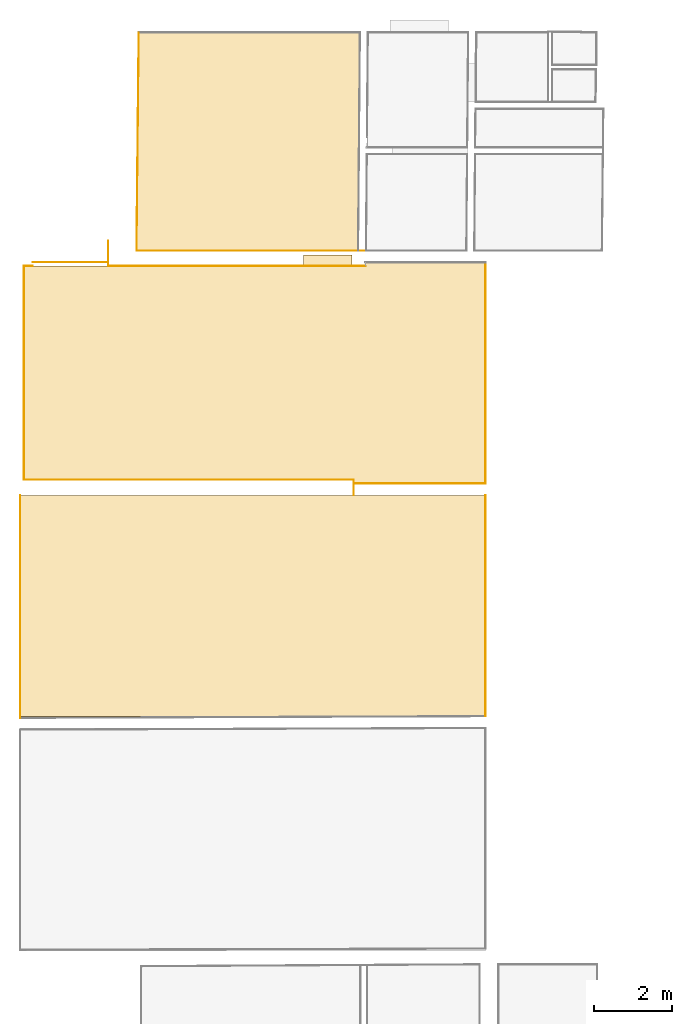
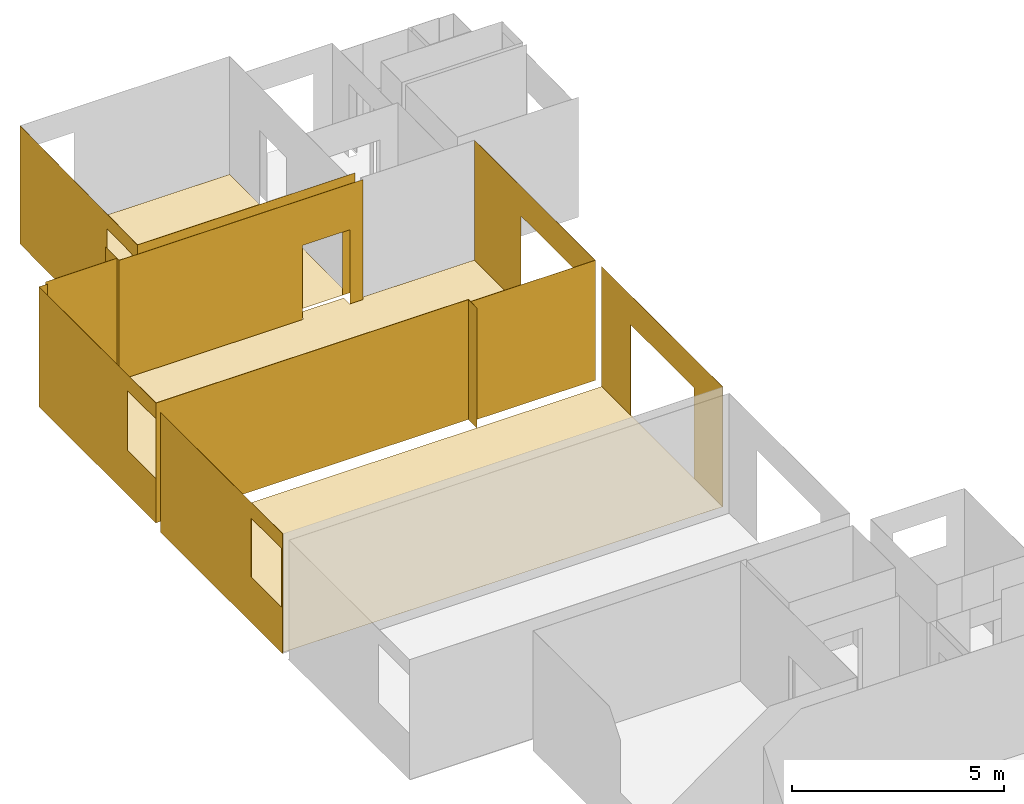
# One storey, part 26 of 33: 16 coverings, 7 openings.
"""IFC2X3 building model written with IfcOpenShell, lengths in millimetres."""

from ifc_helpers import new_model, entity, si_unit, converted_unit, derived_unit, money_unit, direction, frame, origin_with_axes, origin_2d_with_axis, place, context, subcontext, project, spatial, polyline, rectangle, outline, extrude, material, type_object, element, save


model = new_model("IFC2X3")

# Units and contexts
model_context = context("Model", 3, precision=0.01, world=origin_with_axes(), true_north=direction((0.0, 1.0)))
body_context = subcontext(model_context, "Body", "Model", "MODEL_VIEW")
ifc_project = project(units=[si_unit("LENGTHUNIT", "METRE", prefix="MILLI"), si_unit("AREAUNIT", "SQUARE_METRE"), si_unit("VOLUMEUNIT", "CUBIC_METRE"), converted_unit("PLANEANGLEUNIT", "DEGREE", entity("IfcPlaneAngleMeasure", 0.0174532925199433), si_unit("PLANEANGLEUNIT", "RADIAN"), dimensions=[0, 0, 0, 0, 0, 0, 0]), money_unit("EUR"), converted_unit("TIMEUNIT", "Year", entity("IfcTimeMeasure", 31556926.0), si_unit("TIMEUNIT", "SECOND"), dimensions=[0, 0, 1, 0, 0, 0, 0]), si_unit("MASSUNIT", "GRAM", prefix="KILO"), si_unit("THERMODYNAMICTEMPERATUREUNIT", "DEGREE_CELSIUS"), si_unit("LUMINOUSINTENSITYUNIT", "LUMEN"), si_unit("ENERGYUNIT", "JOULE", prefix="MEGA"), derived_unit("THERMALCONDUCTANCEUNIT", [(si_unit("POWERUNIT", "WATT"), 1), (si_unit("LENGTHUNIT", "METRE"), -1), (si_unit("THERMODYNAMICTEMPERATUREUNIT", "KELVIN"), -1)]), derived_unit("SPECIFICHEATCAPACITYUNIT", [(si_unit("ENERGYUNIT", "JOULE"), 1), (si_unit("MASSUNIT", "GRAM", prefix="KILO"), -1), (si_unit("THERMODYNAMICTEMPERATUREUNIT", "KELVIN"), -1)]), derived_unit("MASSDENSITYUNIT", [(si_unit("MASSUNIT", "GRAM", prefix="KILO"), 1), (si_unit("VOLUMEUNIT", "CUBIC_METRE"), -1)])], contexts=[model_context])

# Site, building, storey
site_placement = place(None, origin_with_axes())
site = spatial("IfcSite", under=ifc_project, at=site_placement, Name="Paldiski mnt 245/1, Tallinn, Harjumaa", CompositionType="COMPLEX")
building_placement = place(site_placement, origin_with_axes())
building = spatial("IfcBuilding", under=site, at=building_placement, Name="RKAS Hoone üldnimetus (kasutust iseloomustav) -> IFC Project Manager -> SOLIBRI", CompositionType="ELEMENT")
storey_placement = place(building_placement, origin_with_axes())
storey = spatial("IfcBuildingStorey", under=building, at=storey_placement, Name="Esimene korrus", CompositionType="ELEMENT", Elevation=0.0)

# Covering, opening
ifc_material_1 = material(Name="SA- Värv SM4(Niiskuskindel värv)")
covering_type_1 = type_object("IfcCoveringType", Name="SA- Värv SM4(Niiskuskindel värv) 5", PredefinedType="CLADDING")
covering_1_placement = place(storey_placement, frame((-62289.99999999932, 29749.82872435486, 0.0), z_axis=(0.0, 0.0, 1.0), x_axis=(0.0, -1.0, 0.0)))
covering_1 = element("IfcCovering", 1, at=covering_1_placement, inside=storey, type_object=covering_type_1, material=ifc_material_1, Name="SM4", PredefinedType="CLADDING", context=body_context, shape_type="SweptSolid", body=[
    extrude(outline(polyline([(0.0, 0.0), (5510.497660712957, 0.0), (5510.497660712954, 5.000000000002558), (0.0, 5.000000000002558), (0.0, 0.0)])), origin_with_axes(), (0.0, 0.0, 1.0), 3450.0),
])
opening_1_placement = place(covering_1_placement, frame((29749.82872435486, 62289.99999999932, 0.0), z_axis=(0.0, 0.0, 1.0), x_axis=(0.0, 1.0, 0.0)))
element("IfcOpeningElement", 2, at=opening_1_placement, cuts=covering_1, Name="AVA", ObjectType="OPENING", context=body_context, shape_type="SweptSolid", body=[
    extrude(rectangle(XDim=1335.000000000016, YDim=1720.803785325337, at=origin_2d_with_axis()), frame((-62294.99999999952, 24911.83106364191, 2134.997596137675), z_axis=(-1.0, 0.0, 0.0), x_axis=(0.0, -1.0, 0.0)), (0.0, 0.0, -1.0), 15.000000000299),
])

# Covering
covering_2_placement = place(storey_placement, frame((-53789.99999999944, 24239.33106364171, 0.0), z_axis=(0.0, 0.0, 1.0), x_axis=(0.0, -1.0, 0.0)))
element("IfcCovering", 3, at=covering_2_placement, inside=storey, type_object=covering_type_1, material=ifc_material_1, Name="SM4", PredefinedType="CLADDING", context=body_context, shape_type="SweptSolid", body=[
    extrude(outline(polyline([(0.0, 0.0), (399.502339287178, 0.0), (99.50233928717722, 5.000000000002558), (0.0, 5.000000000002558), (0.0, 0.0)])), origin_with_axes(), (0.0, 0.0, 1.0), 3450.0),
])

# Covering, opening
covering_3_placement = place(storey_placement, frame((-50389.99999999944, 24139.82872435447, 0.0), z_axis=(0.0, 0.0, 1.0), x_axis=(0.0, 1.0, 0.0)))
covering_3 = element("IfcCovering", 4, at=covering_3_placement, inside=storey, type_object=covering_type_1, material=ifc_material_1, Name="SM4", PredefinedType="CLADDING", context=body_context, shape_type="SweptSolid", body=[
    extrude(outline(polyline([(0.0, 0.0), (5699.999999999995, 0.0), (5699.999999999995, 5.000000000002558), (0.0, 5.000000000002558), (0.0, 0.0)])), origin_with_axes(), (0.0, 0.0, 1.0), 3450.0),
])
opening_2_placement = place(covering_3_placement, frame((-24139.82872435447, -50389.99999999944, 0.0), z_axis=(0.0, 0.0, 1.0), x_axis=(0.0, -1.0, 0.0)))
element("IfcOpeningElement", 5, at=opening_2_placement, cuts=covering_3, Name="AVA", ObjectType="OPENING", context=body_context, shape_type="SweptSolid", body=[
    extrude(rectangle(XDim=2979.999999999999, YDim=2600.0, at=origin_2d_with_axis()), frame((-50384.99999999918, 26156.82863923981, 1300.0), z_axis=(1.0, 0.0, 0.0), x_axis=(0.0, 1.0, 0.0)), (0.0, 0.0, -1.0), 15.00000000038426),
])

# Coverings
covering_4_placement = place(storey_placement, frame((-62289.99999999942, 24239.3310636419, 0.0), z_axis=(0.0, 0.0, 1.0), x_axis=(1.0, 0.0, 0.0)))
element("IfcCovering", 6, at=covering_4_placement, inside=storey, type_object=covering_type_1, material=ifc_material_1, Name="SM4", PredefinedType="CLADDING", context=body_context, shape_type="SweptSolid", body=[
    extrude(outline(polyline([(4.923629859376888e-05, 0.0), (8499.999999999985, 0.0), (8499.999999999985, 4.999999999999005), (4.923629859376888e-05, 4.999999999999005), (4.923629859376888e-05, 0.0)])), origin_with_axes(), (0.0, 0.0, 1.0), 3450.0),
])
covering_5_placement = place(storey_placement, frame((-53789.99999999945, 24139.82872435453, 0.0), z_axis=(0.0, 0.0, 1.0), x_axis=(1.0, 0.0, 0.0)))
element("IfcCovering", 7, at=covering_5_placement, inside=storey, type_object=covering_type_1, material=ifc_material_1, Name="SM4", PredefinedType="CLADDING", context=body_context, shape_type="SweptSolid", body=[
    extrude(outline(polyline([(5.000000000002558, 0.0), (3400.000000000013, 0.0), (3400.000000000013, 4.999999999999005), (5.000000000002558, 4.999999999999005), (5.000000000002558, 0.0)])), origin_with_axes(), (0.0, 0.0, 1.0), 3450.0),
])

# Covering, opening
covering_6_placement = place(storey_placement, frame((-53489.99999999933, 29749.82872435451, 0.0), z_axis=(0.0, 0.0, 1.0), x_axis=(-1.0, 0.0, 0.0)))
covering_6 = element("IfcCovering", 8, at=covering_6_placement, inside=storey, type_object=covering_type_1, material=ifc_material_1, Name="SM4", PredefinedType="CLADDING", context=body_context, shape_type="SweptSolid", body=[
    extrude(outline(polyline([(0.0, 0.0), (6619.999999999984, 0.0), (6619.999999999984, 4.999999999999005), (-4.999999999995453, 4.999999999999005), (0.0, 0.0)])), origin_with_axes(), (0.0, 0.0, 1.0), 3450.0),
])
opening_3_placement = place(covering_6_placement, frame((-53489.99999999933, 29749.82872435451, 0.0), z_axis=(0.0, 0.0, 1.0), x_axis=(-1.0, 0.0, 0.0)))
element("IfcOpeningElement", 9, at=opening_3_placement, cuts=covering_6, Name="AVA", ObjectType="OPENING", context=body_context, shape_type="SweptSolid", body=[
    extrude(rectangle(XDim=1299.533910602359, YDim=2189.641807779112, at=origin_2d_with_axis()), frame((-54475.29205388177, 29754.82872435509, 1040.528887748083), z_axis=(0.0, 1.0, 0.0), x_axis=(-1.0, 0.0, 0.0)), (0.0, 0.0, -1.0), 15.00000000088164),
])

# Coverings
covering_7_placement = place(storey_placement, frame((-60109.99999999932, 29749.8287243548, 0.0), z_axis=(0.0, 0.0, 1.0), x_axis=(0.0, 1.0, 0.0)))
element("IfcCovering", 10, at=covering_7_placement, inside=storey, type_object=covering_type_1, material=ifc_material_1, Name="SM4", PredefinedType="CLADDING", context=body_context, shape_type="SweptSolid", body=[
    extrude(outline(polyline([(0.0, 0.0), (650.0000000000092, 0.0), (100.0000000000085, 5.000000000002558), (0.0, 5.000000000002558), (0.0, 0.0)])), origin_with_axes(), (0.0, 0.0, 1.0), 3450.0),
])
covering_8_placement = place(storey_placement, frame((-60109.99999999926, 29849.82872435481, 0.0), z_axis=(0.0, 0.0, 1.0), x_axis=(-1.0, 0.0, 0.0)))
element("IfcCovering", 11, at=covering_8_placement, inside=storey, type_object=covering_type_1, material=ifc_material_1, Name="SM4", PredefinedType="CLADDING", context=body_context, shape_type="SweptSolid", body=[
    extrude(outline(polyline([(5.000000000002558, 0.0), (1950.000000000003, 0.0), (1950.000000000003, 4.999999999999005), (5.000000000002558, 4.999999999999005), (5.000000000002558, 0.0)])), origin_with_axes(), (0.0, 0.0, 1.0), 3450.0),
])
covering_9_placement = place(storey_placement, frame((-62059.99999999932, 29749.82872435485, 0.0), z_axis=(0.0, 0.0, 1.0), x_axis=(-1.0, 0.0, 0.0)))
element("IfcCovering", 12, at=covering_9_placement, inside=storey, type_object=covering_type_1, material=ifc_material_1, Name="SM4", PredefinedType="CLADDING", context=body_context, shape_type="SweptSolid", body=[
    extrude(outline(polyline([(0.0, 0.0), (230.000000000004, 0.0), (230.000000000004, 4.999999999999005), (-5.000000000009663, 4.999999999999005), (0.0, 0.0)])), origin_with_axes(), (0.0, 0.0, 1.0), 3450.0),
])

# Covering, opening
covering_10_placement = place(storey_placement, frame((-59386.06815112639, 30139.82872502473, 0.0), z_axis=(0.0, 0.0, 1.0), x_axis=(1.0, -1.172484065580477e-10, 0.0)))
covering_10 = element("IfcCovering", 13, at=covering_10_placement, inside=storey, type_object=covering_type_1, material=ifc_material_1, Name="SM4", PredefinedType="CLADDING", context=body_context, shape_type="SweptSolid", body=[
    extrude(outline(polyline([(0.0, 0.0), (5916.120723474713, 0.0), (5716.155576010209, 4.999999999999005), (0.05040917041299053, 4.999999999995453), (0.0, 0.0)])), origin_with_axes(), (0.0, 0.0, 1.0), 3400.0),
])
opening_4_placement = place(covering_10_placement, frame((59386.06815466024, -30139.82871806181, 0.0), z_axis=(0.0, 0.0, 1.0), x_axis=(1.0, 1.172484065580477e-10, 0.0)))
element("IfcOpeningElement", 14, at=opening_4_placement, cuts=covering_10, Name="AVA", ObjectType="OPENING", context=body_context, shape_type="SweptSolid", body=[
    extrude(rectangle(XDim=1307.989910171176, YDim=2118.347338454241, at=origin_2d_with_axis()), frame((-54456.92457520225, 30134.82872368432, 1059.17366922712), z_axis=(-1.172484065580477e-10, -1.0, 0.0), x_axis=(1.0, -1.172484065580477e-10, 0.0)), (0.0, 0.0, -1.0), 15.00000201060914),
])

covering_11_placement = place(storey_placement, frame((-59329.30735811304, 35769.8287243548, 0.0), z_axis=(0.0, 0.0, 1.0), x_axis=(-0.01008133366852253, -0.9999491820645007, 0.0)))
covering_11 = element("IfcCovering", 15, at=covering_11_placement, inside=storey, type_object=covering_type_1, material=ifc_material_1, Name="SM4", PredefinedType="CLADDING", context=body_context, shape_type="SweptSolid", body=[
    extrude(outline(polyline([(5.000254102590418, 0.0), (5630.286119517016, 0.0), (5630.235710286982, 5.000000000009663), (4.949844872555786, 5.000000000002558), (5.000254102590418, 0.0)])), origin_with_axes(), (0.0, 0.0, 1.0), 3400.0),
])
opening_5_placement = place(covering_11_placement, frame((35169.89243170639, 59686.89994383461, 0.0), z_axis=(0.0, 0.0, 1.0), x_axis=(-0.01008133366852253, 0.9999491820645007, 0.0)))
element("IfcOpeningElement", 16, at=opening_5_placement, cuts=covering_11, Name="AVA", ObjectType="OPENING", context=body_context, shape_type="SweptSolid", body=[
    extrude(rectangle(XDim=1205.532438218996, YDim=1689.471107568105, at=origin_2d_with_axis()), frame((-59447.82869005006, 30997.72930160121, 2135.264446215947), z_axis=(-0.9999491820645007, 0.01008133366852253, 0.0), x_axis=(-0.01008133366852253, -0.9999491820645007, 0.0)), (0.0, 0.0, -1.0), 185.291032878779),
])

# Coverings
ifc_material_2 = material(Name="SA- PM-8 EPO lakk")
covering_type_2 = type_object("IfcCoveringType", Name="SA- PM-8 EPO lakk 1", PredefinedType="FLOORING")
covering_12_placement = place(storey_placement, frame((-59385.97765385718, 30148.80129792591, 0.0), z_axis=(0.0, 0.0, 1.0), x_axis=(1.0, 0.0, 0.0)))
element("IfcCovering", 17, at=covering_12_placement, inside=storey, type_object=covering_type_2, material=ifc_material_2, Name="PM-8", PredefinedType="FLOORING", context=body_context, shape_type="SweptSolid", body=[
    extrude(outline(polyline([(0.0, 0.0), (-0.09043080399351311, -8.972573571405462), (5716.023256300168, -8.972573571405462), (5751.03294520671, 4172.570904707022), (5750.822970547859, 4172.57270817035), (5752.252172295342, 4343.281762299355), (5752.462146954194, 4343.280044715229), (5763.160033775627, 5621.027457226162), (56.67031402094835, 5621.027457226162), (2.474866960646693, 245.4760062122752), (2.474866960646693, 0.0), (0.0, 0.0)])), origin_with_axes(), (0.0, 0.0, 1.0), 1.0),
])
covering_13_placement = place(storey_placement, frame((-62390.00000306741, 18139.82708458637, 0.0), z_axis=(0.0, 0.0, 1.0), x_axis=(1.0, 0.0, 0.0)))
element("IfcCovering", 18, at=covering_13_placement, inside=storey, type_object=covering_type_2, material=ifc_material_2, Name="PM-8", PredefinedType="FLOORING", context=body_context, shape_type="SweptSolid", body=[
    extrude(outline(polyline([(0.0, 0.0), (11999.54685387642, 0.0), (11999.54685387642, 5699.503979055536), (0.0, 5699.503979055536), (0.0, 0.0)])), origin_with_axes(), (0.0, 0.0, 1.0), 1.0),
])
covering_14_placement = place(storey_placement, frame((-62289.99982267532, 25579.33102211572, 0.0), z_axis=(0.0, 0.0, 1.0), x_axis=(1.0, 0.0, 0.0)))
element("IfcCovering", 19, at=covering_14_placement, inside=storey, type_object=covering_type_2, material=ifc_material_2, Name="PM-8", PredefinedType="FLOORING", context=body_context, shape_type="SweptSolid", body=[
    extrude(outline(polyline([(0.0, 0.0), (-0.0001773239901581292, -1339.999956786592), (85.11799644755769, -1339.999956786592), (8499.999797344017, -1339.999956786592), (8499.999797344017, -1439.502297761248), (11899.99982267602, -1439.502297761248), (11899.99982267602, 4260.49765604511), (11410.04531149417, 4260.49765604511), (8799.99988824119, 4260.49765604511), (8799.99988824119, 4170.497752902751), (8455.045385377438, 4170.497702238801), (8456.617031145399, 4450.668977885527), (7205.045385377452, 4450.668977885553), (7205.045385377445, 4170.497702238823), (2899.999755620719, 4170.497752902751), (-0.0001773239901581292, 4170.497752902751), (0.0, 0.0)])), origin_with_axes(), (0.0, 0.0, 1.0), 1.0),
])

# Covering, opening
ifc_material_3 = material(Name="SA- Värv SM12(tolmutõke)")
covering_type_3 = type_object("IfcCoveringType", Name="SA- Värv SM12(tolmutõke) 5", PredefinedType="CLADDING")
covering_15_placement = place(storey_placement, frame((-62390.00000285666, 23839.33106364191, 0.0), z_axis=(0.0, 0.0, 1.0), x_axis=(4.974964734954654e-10, -1.0, 0.0)))
covering_15 = element("IfcCovering", 20, at=covering_15_placement, inside=storey, type_object=covering_type_3, material=ifc_material_3, Name="SM12", PredefinedType="CLADDING", context=body_context, shape_type="SweptSolid", body=[
    extrude(outline(polyline([(0.0, 0.0), (5742.925603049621, 0.0), (5742.925603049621, 5.000000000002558), (0.0, 5.000000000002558), (0.0, 0.0)])), origin_with_axes(), (0.0, 0.0, 1.0), 3450.0),
])
opening_6_placement = place(covering_15_placement, frame((23839.33109468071, 62389.99999099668, 0.0), z_axis=(0.0, 0.0, 1.0), x_axis=(4.974964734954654e-10, 1.0, 0.0)))
element("IfcOpeningElement", 21, at=opening_6_placement, cuts=covering_15, Name="AVA", ObjectType="OPENING", context=body_context, shape_type="SweptSolid", body=[
    extrude(rectangle(XDim=1422.819513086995, YDim=1694.3156738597, at=origin_2d_with_axis()), frame((-62395.00000571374, 18868.41900289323, 2152.15783692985), z_axis=(-1.0, -4.974964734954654e-10, 0.0), x_axis=(4.974964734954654e-10, -1.0, 0.0)), (0.0, 0.0, -1.0), 15.00000857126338),
])

covering_16_placement = place(storey_placement, frame((-50390.45314919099, 18139.82708458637, 0.0), z_axis=(0.0, 0.0, 1.0), x_axis=(7.949983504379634e-05, 0.9999999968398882, 0.0)))
covering_16 = element("IfcCovering", 22, at=covering_16_placement, inside=storey, type_object=covering_type_3, material=ifc_material_3, Name="SM12", PredefinedType="CLADDING", context=body_context, shape_type="SweptSolid", body=[
    extrude(outline(polyline([(5.000034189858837, 0.0), (5700.001657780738, 0.0), (5700.001657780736, 5.000000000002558), (4.981543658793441, 5.000000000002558), (5.000034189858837, 0.0)])), origin_with_axes(), (0.0, 0.0, 1.0), 3450.0),
])
opening_7_placement = place(covering_16_placement, frame((-18135.82099454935, -50391.89510321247, 0.0), z_axis=(0.0, 0.0, 1.0), x_axis=(7.949983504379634e-05, -0.9999999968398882, 0.0)))
element("IfcOpeningElement", 23, at=opening_7_placement, cuts=covering_16, Name="AVA", ObjectType="OPENING", context=body_context, shape_type="SweptSolid", body=[
    extrude(rectangle(XDim=2989.302143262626, YDim=2605.958039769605, at=origin_2d_with_axis()), frame((-50384.5468508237, 20982.00418973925, 1302.979019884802), z_axis=(0.9999999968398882, -7.949983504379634e-05, 0.0), x_axis=(7.949983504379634e-05, 0.9999999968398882, 0.0)), (0.0, 0.0, -1.0), 16.35944757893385),
])

save(model, "model.ifc")
